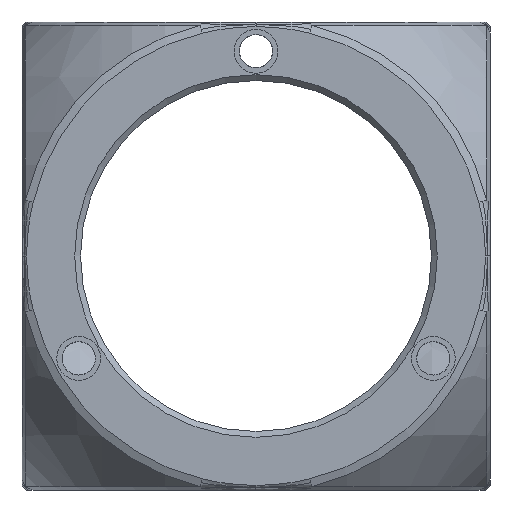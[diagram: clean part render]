
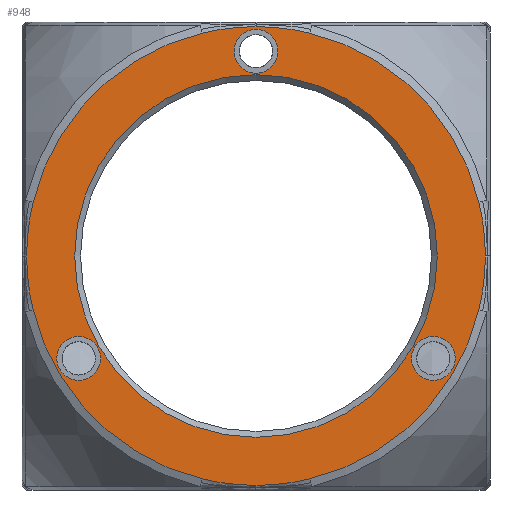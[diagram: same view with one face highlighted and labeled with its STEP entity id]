
A CAD part, front view. The second image highlights one B-rep face of the part: STEP entity #948.
In plain terms, the highlighted planar face has unit normal (0, -1, 0).
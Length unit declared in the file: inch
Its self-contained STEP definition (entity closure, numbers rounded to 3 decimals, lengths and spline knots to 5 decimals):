
#436=PLANE('',#3279);
#486=FACE_BOUND('',#1332,.T.);
#487=FACE_BOUND('',#1333,.T.);
#488=FACE_BOUND('',#1334,.T.);
#489=FACE_BOUND('',#1335,.T.);
#490=FACE_BOUND('',#1336,.T.);
#674=CIRCLE('',#3121,1.92913);
#675=CIRCLE('',#3122,1.92913);
#677=CIRCLE('',#3124,1.92913);
#678=CIRCLE('',#3125,1.92913);
#685=CIRCLE('',#3132,1.92913);
#689=CIRCLE('',#3136,1.92913);
#690=CIRCLE('',#3137,1.92913);
#734=CIRCLE('',#3189,1.92913);
#745=CIRCLE('',#3204,1.92913);
#750=CIRCLE('',#3211,1.92913);
#752=CIRCLE('',#3214,1.92913);
#758=CIRCLE('',#3223,1.92913);
#792=CIRCLE('',#3275,1.52559);
#793=CIRCLE('',#3276,0.18455);
#794=CIRCLE('',#3277,0.18455);
#795=CIRCLE('',#3278,0.18455);
#948=ADVANCED_FACE('',(#486,#487,#488,#489,#490),#436,.T.);
#1332=EDGE_LOOP('',(#2211,#2212,#2213,#2214,#2215,#2216,#2217,#2218,#2219,
#2220,#2221,#2222));
#1333=EDGE_LOOP('',(#2223));
#1334=EDGE_LOOP('',(#2224));
#1335=EDGE_LOOP('',(#2225));
#1336=EDGE_LOOP('',(#2226));
#2211=ORIENTED_EDGE('',*,*,#2663,.F.);
#2212=ORIENTED_EDGE('',*,*,#2898,.F.);
#2213=ORIENTED_EDGE('',*,*,#2675,.F.);
#2214=ORIENTED_EDGE('',*,*,#2679,.F.);
#2215=ORIENTED_EDGE('',*,*,#2892,.F.);
#2216=ORIENTED_EDGE('',*,*,#2739,.F.);
#2217=ORIENTED_EDGE('',*,*,#2743,.F.);
#2218=ORIENTED_EDGE('',*,*,#2906,.F.);
#2219=ORIENTED_EDGE('',*,*,#2716,.F.);
#2220=ORIENTED_EDGE('',*,*,#2879,.F.);
#2221=ORIENTED_EDGE('',*,*,#2900,.F.);
#2222=ORIENTED_EDGE('',*,*,#2659,.F.);
#2223=ORIENTED_EDGE('',*,*,#2940,.F.);
#2224=ORIENTED_EDGE('',*,*,#2941,.T.);
#2225=ORIENTED_EDGE('',*,*,#2942,.T.);
#2226=ORIENTED_EDGE('',*,*,#2943,.T.);
#2408=VERTEX_POINT('',#4102);
#2409=VERTEX_POINT('',#4104);
#2411=VERTEX_POINT('',#4150);
#2420=VERTEX_POINT('',#4340);
#2421=VERTEX_POINT('',#4342);
#2423=VERTEX_POINT('',#4388);
#2450=VERTEX_POINT('',#4954);
#2451=VERTEX_POINT('',#4956);
#2468=VERTEX_POINT('',#5292);
#2469=VERTEX_POINT('',#5294);
#2471=VERTEX_POINT('',#5340);
#2556=VERTEX_POINT('',#7235);
#2582=VERTEX_POINT('',#7495);
#2583=VERTEX_POINT('',#7497);
#2584=VERTEX_POINT('',#7499);
#2585=VERTEX_POINT('',#7501);
#2659=EDGE_CURVE('',#2408,#2409,#674,.T.);
#2663=EDGE_CURVE('',#2411,#2408,#675,.T.);
#2675=EDGE_CURVE('',#2420,#2421,#677,.T.);
#2679=EDGE_CURVE('',#2423,#2420,#678,.T.);
#2716=EDGE_CURVE('',#2450,#2451,#685,.T.);
#2739=EDGE_CURVE('',#2468,#2469,#689,.T.);
#2743=EDGE_CURVE('',#2471,#2468,#690,.T.);
#2879=EDGE_CURVE('',#2556,#2450,#734,.T.);
#2892=EDGE_CURVE('',#2469,#2423,#745,.T.);
#2898=EDGE_CURVE('',#2421,#2411,#750,.T.);
#2900=EDGE_CURVE('',#2409,#2556,#752,.T.);
#2906=EDGE_CURVE('',#2451,#2471,#758,.T.);
#2940=EDGE_CURVE('',#2582,#2582,#792,.T.);
#2941=EDGE_CURVE('',#2583,#2583,#793,.T.);
#2942=EDGE_CURVE('',#2584,#2584,#794,.T.);
#2943=EDGE_CURVE('',#2585,#2585,#795,.T.);
#3121=AXIS2_PLACEMENT_3D('',#4103,#3399,#3400);
#3122=AXIS2_PLACEMENT_3D('',#4151,#3403,#3404);
#3124=AXIS2_PLACEMENT_3D('',#4341,#3412,#3413);
#3125=AXIS2_PLACEMENT_3D('',#4389,#3416,#3417);
#3132=AXIS2_PLACEMENT_3D('',#4955,#3446,#3447);
#3136=AXIS2_PLACEMENT_3D('',#5293,#3464,#3465);
#3137=AXIS2_PLACEMENT_3D('',#5341,#3468,#3469);
#3189=AXIS2_PLACEMENT_3D('',#7236,#3626,#3627);
#3204=AXIS2_PLACEMENT_3D('',#7363,#3658,#3659);
#3211=AXIS2_PLACEMENT_3D('',#7408,#3673,#3674);
#3214=AXIS2_PLACEMENT_3D('',#7411,#3679,#3680);
#3223=AXIS2_PLACEMENT_3D('',#7420,#3697,#3698);
#3275=AXIS2_PLACEMENT_3D('',#7494,#3801,#3802);
#3276=AXIS2_PLACEMENT_3D('',#7496,#3803,#3804);
#3277=AXIS2_PLACEMENT_3D('',#7498,#3805,#3806);
#3278=AXIS2_PLACEMENT_3D('',#7500,#3807,#3808);
#3279=AXIS2_PLACEMENT_3D('',#7502,#3809,#3810);
#3399=DIRECTION('',(0.,1.,0.));
#3400=DIRECTION('',(1.,0.,0.));
#3403=DIRECTION('',(0.,1.,0.));
#3404=DIRECTION('',(1.,0.,0.));
#3412=DIRECTION('',(0.,1.,0.));
#3413=DIRECTION('',(0.,0.,1.));
#3416=DIRECTION('',(0.,1.,0.));
#3417=DIRECTION('',(0.,0.,1.));
#3446=DIRECTION('',(0.,1.,0.));
#3447=DIRECTION('',(0.,0.,-1.));
#3464=DIRECTION('',(0.,1.,0.));
#3465=DIRECTION('',(-1.,0.,0.));
#3468=DIRECTION('',(0.,1.,0.));
#3469=DIRECTION('',(-1.,0.,0.));
#3626=DIRECTION('',(0.,1.,0.));
#3627=DIRECTION('',(0.,0.,-1.));
#3658=DIRECTION('',(0.,1.,0.));
#3659=DIRECTION('',(0.,0.,1.));
#3673=DIRECTION('',(0.,1.,0.));
#3674=DIRECTION('',(0.,0.,1.));
#3679=DIRECTION('',(0.,1.,0.));
#3680=DIRECTION('',(0.,0.,-1.));
#3697=DIRECTION('',(0.,1.,0.));
#3698=DIRECTION('',(0.,0.,-1.));
#3801=DIRECTION('',(0.,-1.,0.));
#3802=DIRECTION('',(-1.,0.,0.));
#3803=DIRECTION('',(0.,1.,0.));
#3804=DIRECTION('',(0.966,0.,-0.259));
#3805=DIRECTION('',(0.,1.,0.));
#3806=DIRECTION('',(-0.259,0.,0.966));
#3807=DIRECTION('',(0.,1.,0.));
#3808=DIRECTION('',(-0.707,0.,-0.707));
#3809=DIRECTION('',(0.,-1.,0.));
#3810=DIRECTION('',(-1.,0.,0.));
#4102=CARTESIAN_POINT('',(1.92913,-1.9685,0.));
#4103=CARTESIAN_POINT('',(0.,-1.9685,0.));
#4104=CARTESIAN_POINT('',(1.87533,-1.9685,-0.45245));
#4150=CARTESIAN_POINT('',(1.87533,-1.9685,0.45245));
#4151=CARTESIAN_POINT('',(0.,-1.9685,0.));
#4340=CARTESIAN_POINT('',(0.,-1.9685,1.92913));
#4341=CARTESIAN_POINT('',(0.,-1.9685,0.));
#4342=CARTESIAN_POINT('',(0.45245,-1.9685,1.87533));
#4388=CARTESIAN_POINT('',(-0.45245,-1.9685,1.87533));
#4389=CARTESIAN_POINT('',(0.,-1.9685,0.));
#4954=CARTESIAN_POINT('',(0.,-1.9685,-1.92913));
#4955=CARTESIAN_POINT('',(0.,-1.9685,0.));
#4956=CARTESIAN_POINT('',(-0.45245,-1.9685,-1.87533));
#5292=CARTESIAN_POINT('',(-1.92913,-1.9685,0.));
#5293=CARTESIAN_POINT('',(0.,-1.9685,0.));
#5294=CARTESIAN_POINT('',(-1.87533,-1.9685,0.45245));
#5340=CARTESIAN_POINT('',(-1.87533,-1.9685,-0.45245));
#5341=CARTESIAN_POINT('',(0.,-1.9685,0.));
#7235=CARTESIAN_POINT('',(0.45245,-1.9685,-1.87533));
#7236=CARTESIAN_POINT('',(0.,-1.9685,0.));
#7363=CARTESIAN_POINT('',(0.,-1.9685,0.));
#7408=CARTESIAN_POINT('',(0.,-1.9685,0.));
#7411=CARTESIAN_POINT('',(0.,-1.9685,0.));
#7420=CARTESIAN_POINT('',(0.,-1.9685,0.));
#7494=CARTESIAN_POINT('',(0.,-1.9685,0.));
#7495=CARTESIAN_POINT('',(-1.52559,-1.9685,0.));
#7496=CARTESIAN_POINT('',(-1.49168,-1.9685,-0.86122));
#7497=CARTESIAN_POINT('',(-1.31342,-1.9685,-0.90898));
#7498=CARTESIAN_POINT('',(1.49168,-1.9685,-0.86122));
#7499=CARTESIAN_POINT('',(1.44391,-1.9685,-0.68296));
#7500=CARTESIAN_POINT('',(0.,-1.9685,1.72244));
#7501=CARTESIAN_POINT('',(-0.13049,-1.9685,1.59195));
#7502=CARTESIAN_POINT('',(-1.9685,-1.9685,0.));
